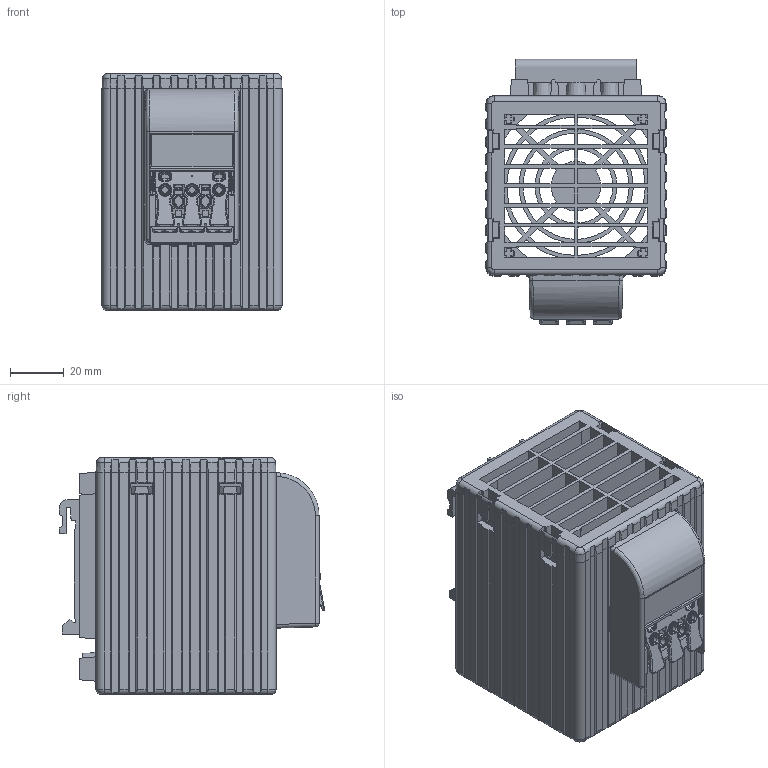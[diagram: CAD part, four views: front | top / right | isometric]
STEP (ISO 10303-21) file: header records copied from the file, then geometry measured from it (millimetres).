
FILE_DESCRIPTION(/* description */ ('Unknown'),/* implementation_level */ '2;1');
FILE_NAME(/* name */ '7H.51.8.230.0250',/* time_stamp */ '2018-02-07T11:47:23+01:00',/* author */ ('Unknown'),/* organization */ ('Unknown'),/* preprocessor_version */ 'ST-DEVELOPER v16.7',/* originating_system */ 'DEX',/* authorisation */ $);
FILE_SCHEMA (('AUTOMOTIVE_DESIGN {1 0 10303 214 3 1 1}'));
Products named in the file (1): TMX - solid-edge
Bounding box: 67 x 98.68 x 88.2 mm (x, y, z)
Volume: 28232.3 mm3; surface area: 96867.2 mm2
Topology: 6 solids, 23 shells, 1852 faces, 5556 edges, 3681 vertices
Faces by surface type: plane 1194, bspline 301, cylinder 261, torus 39, cone 35, sphere 22
Full cylindrical faces by diameter (mm): 3.3 x2, 4.252 x3
Entity records: 71277 total; most frequent: CARTESIAN_POINT 24582, ORIENTED_EDGE 10604, DIRECTION 7916, EDGE_CURVE 5519, VERTEX_POINT 3676, LINE 3444, VECTOR 3444, AXIS2_PLACEMENT_3D 2236
